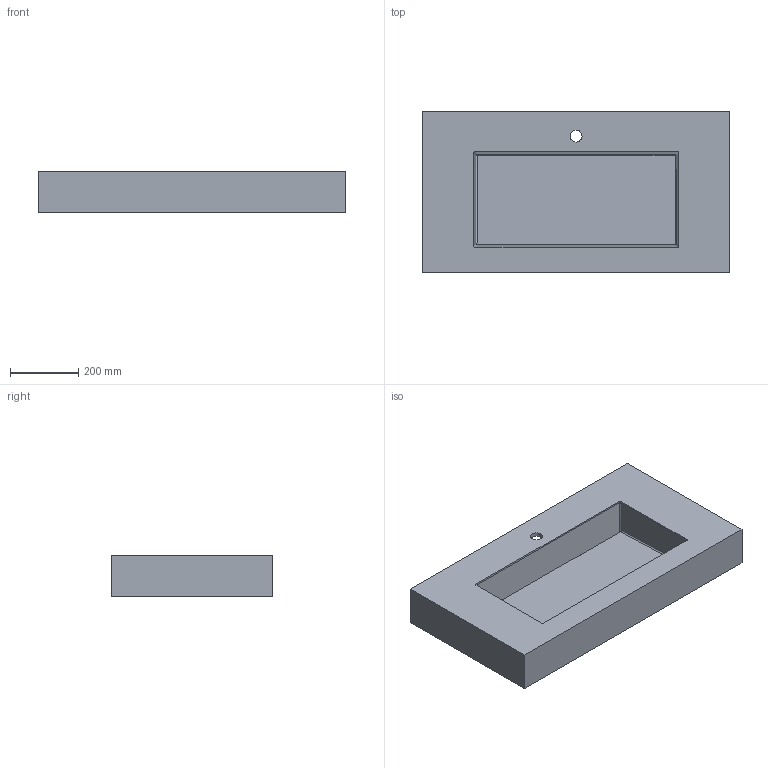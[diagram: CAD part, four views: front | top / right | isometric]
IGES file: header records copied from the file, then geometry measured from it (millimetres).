
Start section: Data from Parasolid IGES Translator 19.0.9, Copyright(c) 2006 Siemens PL M Software. All Rights Reserved.
Global section: file name: noorth-top-H 12 D 47,3 W 90_6551.igs; native system: By Siemens PLM Incorporated; preprocessor: XPlus GENERIC/IGES 19.0.9; author: Noname; organization: Noname; date: 20200603.095036; units: metre
Bounding box: 900 x 473 x 120 mm (x, y, z)
Volume: 9592634.2 mm3; surface area: 1617531 mm2
Topology: 1 solids, 1 shells, 109 faces, 270 edges, 157 vertices
Faces by surface type: bspline 42, cylinder 34, plane 33
Full cylindrical faces by diameter (mm): 35 x1
